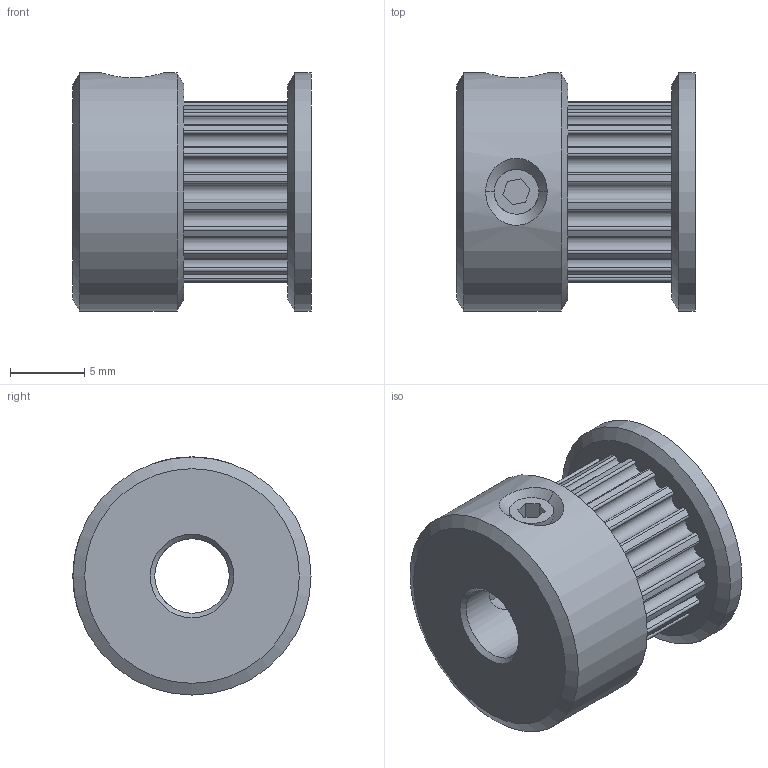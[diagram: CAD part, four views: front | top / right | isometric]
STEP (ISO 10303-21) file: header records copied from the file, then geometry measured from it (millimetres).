
FILE_DESCRIPTION(/* description */ (''),/* implementation_level */ '2;1');
FILE_NAME(/* name */ '2D Plotter V2_GT2 20 Teeth pulley.step',/* time_stamp */ '2025-04-22T13:03:25+05:30',/* author */ (''),/* organization */ (''),/* preprocessor_version */ 'ST-DEVELOPER v20.1',/* originating_system */ 'Autodesk Translation Framework v14.4.0.0',/* authorisation */ '');
FILE_SCHEMA (('AUTOMOTIVE_DESIGN { 1 0 10303 214 3 1 1 }'));
Length unit declared in the file: millimetre
Products named in the file (1): 2D Plotter V2_GT2 20 Teeth pulley
Bounding box: 16 x 16 x 16 mm (x, y, z)
Volume: 2150 mm3; surface area: 1794.3 mm2
Topology: 3 solids, 3 shells, 121 faces, 331 edges, 220 vertices
Faces by surface type: cylinder 87, plane 23, cone 7, bspline 4
Full cylindrical faces by diameter (mm): 3 x4, 5 x1, 16 x2
Entity records: 5769 total; most frequent: CARTESIAN_POINT 2501, DIRECTION 735, ORIENTED_EDGE 662, EDGE_CURVE 331, AXIS2_PLACEMENT_3D 300, VERTEX_POINT 220, CIRCLE 182, LINE 135
